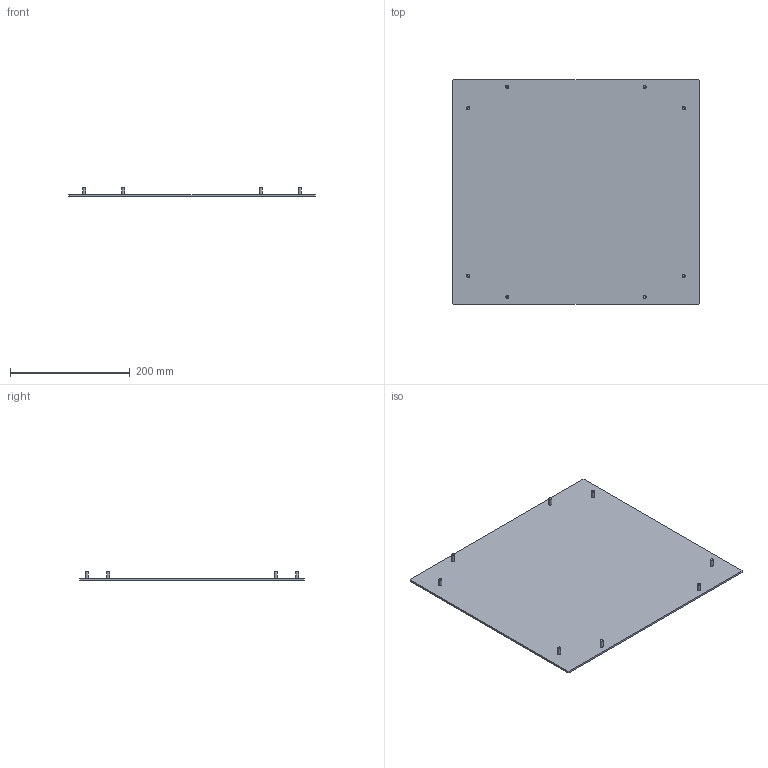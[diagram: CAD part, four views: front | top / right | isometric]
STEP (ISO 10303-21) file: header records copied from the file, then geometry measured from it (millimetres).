
FILE_DESCRIPTION((''),'2;1');
FILE_NAME('D:\scratch\ideas\plate_cpfp3740.stp', '2006-06-23T06:57:27',('User'),('SDRC'),'I-DEAS Master Series 9','UNIX', 'Yes');
FILE_SCHEMA(('AUTOMOTIVE_DESIGN { 1 0 10303 214 0 1 1 1 }'));
Length unit declared in the file: inch
Products named in the file (3): 16233; plate_front; 87541671
Assembly tree (9 placements, depth 2):
  16233
    plate_front
    87541671  x8
Bounding box: 411.3 x 375.4 x 15 mm (x, y, z)
Volume: 492079.6 mm3; surface area: 316039.6 mm2
Topology: 9 solids, 9 shells, 50 faces, 88 edges, 56 vertices
Faces by surface type: bspline 50
Entity records: 1044 total; most frequent: CARTESIAN_POINT 455, ORIENTED_EDGE 106, EDGE_CURVE 53, DIRECTION 38, EDGE_LOOP 38, VERTEX_POINT 35, FACE_OUTER_BOUND 22, ADVANCED_FACE 22
